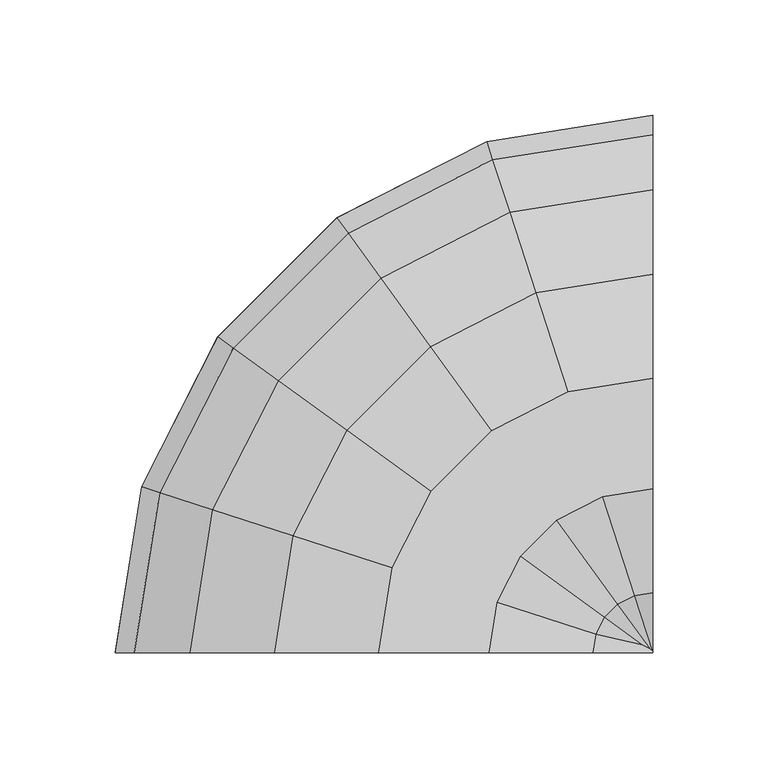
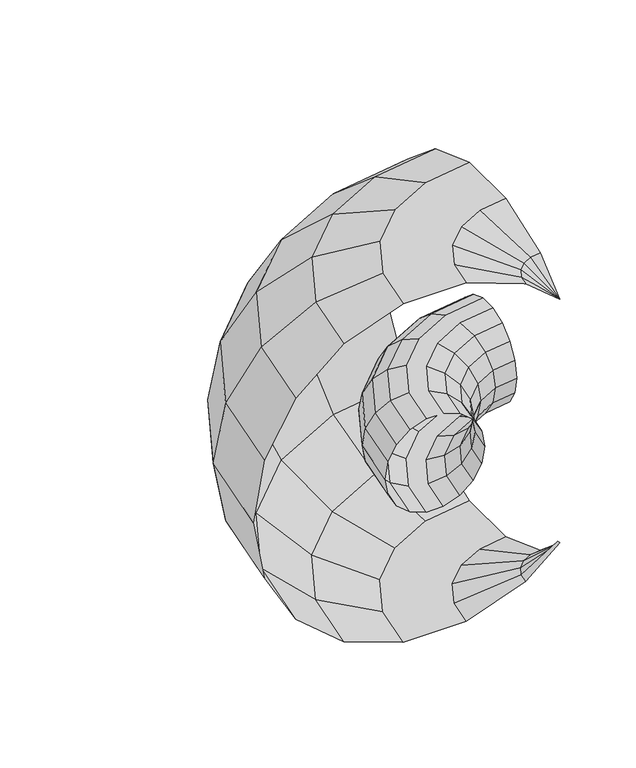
"""IFC4 building model written with IfcOpenShell, lengths in millimetres: proxy geometry, Rohrbogen 257273 : Rohrbogen 257273."""

from ifc_helpers import new_model, si_unit, origin, place, context, project, spatial, triangles, source, transform, mapped, element, save


def generic_models_df03ad17(model_context):
    return source(origin(), model_context, "Body", "Tessellation", [
        triangles([(14355.2191223, 7384.2393906, 5635.6408905), (14357.5143311, 7384.2393906, 5648.654631), (14363.9139404, 7424.6450638, 5648.654631), (14361.7315155, 7425.3543228, 5635.6408905), (14382.4860626, 7461.0951645, 5648.654631), (14380.6291992, 7462.4445007, 5635.6408905), (14411.4133667, 7490.0224686, 5648.654631), (14410.0646118, 7491.879332, 5635.6408905), (14447.8634674, 7508.5951721, 5648.654631), (14447.1542084, 7510.777597, 5635.6408905), (14488.2691406, 7514.9947815, 5648.654631), (14488.2691406, 7517.2894089, 5635.6408905), (14364.1209045, 7384.2393906, 5660.0987), (14370.1972778, 7422.6033279, 5660.0987), (14387.8310852, 7457.2116806, 5660.0987), (14415.2968506, 7484.677446, 5660.0987), (14449.9052032, 7502.3112534, 5660.0987), (14488.2691406, 7508.3876266, 5660.0987), (14374.2435425, 7384.2393906, 5668.5929489), (14379.8245972, 7419.4750305, 5668.5929489), (14396.021283, 7451.2614624, 5668.5929489), (14421.2464874, 7476.4878296, 5668.5929489), (14453.0329193, 7492.6833527, 5668.5929489), (14488.2691406, 7498.2644073, 5668.5929489), (14386.6613892, 7384.2393906, 5673.1124405), (14391.6343414, 7415.6380554, 5673.1124405), (14406.0671814, 7443.9624893, 5673.1124405), (14428.5460419, 7466.4413498, 5673.1124405), (14456.8710571, 7480.8736084, 5673.1124405), (14488.2691406, 7485.8465607, 5673.1124405), (14399.8768616, 7384.2393906, 5673.1124405), (14404.202179, 7411.5540024, 5673.1124405), (14416.7583893, 7436.1955215, 5673.1124405), (14436.3130096, 7455.7507233, 5673.1124405), (14460.9545288, 7468.3057709, 5673.1124405), (14488.2691406, 7472.632251, 5673.1124405), (14412.2935455, 7384.2393906, 5668.5929489), (14416.0130859, 7407.7170273, 5668.5929489), (14426.8042877, 7428.8965485, 5668.5929489), (14443.6125641, 7445.7042435, 5668.5929489), (14464.7915039, 7456.4960266, 5668.5929489), (14488.2691406, 7460.2144043, 5668.5929489), (14422.4173462, 7384.2393906, 5660.0987), (14425.6404053, 7404.5887299, 5660.0987), (14434.9933228, 7422.9463303, 5660.0987), (14449.5622009, 7437.5146271, 5660.0987), (14467.91922, 7446.8681259, 5660.0987), (14488.2691406, 7450.091185, 5660.0987), (14429.0239197, 7384.2393906, 5648.654631), (14431.9237427, 7402.546994, 5648.654631), (14440.3395081, 7419.062265, 5648.654631), (14453.4456848, 7432.1696045, 5648.654631), (14469.9609558, 7440.5842072, 5648.654631), (14488.2691406, 7443.4840302, 5648.654631), (14431.3191284, 7384.2393906, 5635.6408905), (14434.1061676, 7401.837735, 5635.6408905), (14442.1952087, 7417.7135101, 5635.6408905), (14454.7944397, 7430.3127411, 5635.6408905), (14470.6702148, 7438.4017822, 5635.6408905), (14488.2691406, 7441.1894028, 5635.6408905), (14429.0239197, 7384.2393906, 5622.62715), (14431.9237427, 7402.546994, 5622.62715), (14440.3395081, 7419.062265, 5622.62715), (14453.4456848, 7432.1696045, 5622.62715), (14469.9609558, 7440.5842072, 5622.62715), (14488.2691406, 7443.4840302, 5622.62715), (14422.4173462, 7384.2393906, 5611.1824997), (14425.6404053, 7404.5887299, 5611.1824997), (14434.9933228, 7422.9463303, 5611.1824997), (14449.5622009, 7437.5146271, 5611.1824997), (14467.91922, 7446.8681259, 5611.1824997), (14488.2691406, 7450.091185, 5611.1824997), (14412.2935455, 7384.2393906, 5602.6882507), (14416.0130859, 7407.7170273, 5602.6882507), (14426.8042877, 7428.8965485, 5602.6882507), (14443.6125641, 7445.7042435, 5602.6882507), (14464.7915039, 7456.4960266, 5602.6882507), (14488.2691406, 7460.2144043, 5602.6882507), (14399.8768616, 7384.2393906, 5598.1687592), (14404.202179, 7411.5540024, 5598.1687592), (14416.7583893, 7436.1955215, 5598.1687592), (14436.3130096, 7455.7507233, 5598.1687592), (14460.9545288, 7468.3057709, 5598.1687592), (14488.2691406, 7472.632251, 5598.1687592), (14386.6613892, 7384.2393906, 5598.1687592), (14391.6343414, 7415.6380554, 5598.1687592), (14406.0671814, 7443.9624893, 5598.1687592), (14428.5460419, 7466.4413498, 5598.1687592), (14456.8710571, 7480.8736084, 5598.1687592), (14488.2691406, 7485.8465607, 5598.1687592), (14374.2435425, 7384.2393906, 5602.6882507), (14379.8245972, 7419.4750305, 5602.6882507), (14396.021283, 7451.2614624, 5602.6882507), (14421.2464874, 7476.4878296, 5602.6882507), (14453.0329193, 7492.6833527, 5602.6882507), (14488.2691406, 7498.2644073, 5602.6882507), (14364.1209045, 7384.2393906, 5611.1824997), (14370.1972778, 7422.6033279, 5611.1824997), (14387.8310852, 7457.2116806, 5611.1824997), (14415.2968506, 7484.677446, 5611.1824997), (14449.9052032, 7502.3112534, 5611.1824997), (14488.2691406, 7508.3876266, 5611.1824997), (14357.5143311, 7384.2393906, 5622.62715), (14363.9139404, 7424.6450638, 5622.62715), (14382.4860626, 7461.0951645, 5622.62715), (14411.4133667, 7490.0224686, 5622.62715), (14447.8634674, 7508.5951721, 5622.62715), (14488.2691406, 7514.9947815, 5622.62715), (14255.2194122, 7384.2393906, 5635.6408905), (14263.5444855, 7384.2393906, 5682.8566132), (14274.5438141, 7453.6828262, 5682.8566132), (14266.6256927, 7456.255925, 5635.6408905), (14306.462796, 7516.3290024, 5682.8566132), (14299.7271606, 7521.2228897, 5635.6408905), (14356.1795288, 7566.0451538, 5682.8566132), (14351.2856415, 7572.7807892, 5635.6408905), (14418.825705, 7597.9652985, 5682.8566132), (14416.2526062, 7605.8828384, 5635.6408905), (14488.2691406, 7608.9640457, 5682.8566132), (14488.2691406, 7617.289119, 5635.6408905), (14287.5162781, 7384.2393906, 5724.3773346), (14297.3424225, 7446.2751389, 5724.3773346), (14325.8569611, 7502.2385834, 5724.3773346), (14370.2693665, 7546.6515701, 5724.3773346), (14426.2333923, 7575.1661087, 5724.3773346), (14488.2691406, 7584.9916718, 5724.3773346), (14324.2442688, 7384.2393906, 5755.1958023), (14332.2716858, 7434.9258316, 5755.1958023), (14355.5702637, 7480.6509476, 5755.1958023), (14391.8575836, 7516.9382675, 5755.1958023), (14437.5826996, 7540.236264, 5755.1958023), (14488.2691406, 7548.2642624, 5755.1958023), (14369.2973328, 7384.2393906, 5771.5936386), (14375.1202332, 7421.004007, 5771.5936386), (14392.0180389, 7454.1694244, 5771.5936386), (14418.3385254, 7480.4899109, 5771.5936386), (14451.5051056, 7497.3888794, 5771.5936386), (14488.2691406, 7503.2117798, 5771.5936386), (14417.240918, 7384.2393906, 5771.5936386), (14420.71745, 7406.1880508, 5771.5936386), (14430.806369, 7425.9885864, 5771.5936386), (14446.5205261, 7441.7021622, 5771.5936386), (14466.3204803, 7451.7910812, 5771.5936386), (14488.2691406, 7455.2670319, 5771.5936386), (14462.2939819, 7384.2393906, 5755.1958023), (14463.5648346, 7392.2662262, 5755.1958023), (14467.255307, 7399.5070633, 5755.1958023), (14473.0014679, 7405.2538055, 5755.1958023), (14480.2428864, 7408.9431152, 5755.1958023), (14488.2691406, 7410.2145493, 5755.1958023), (14488.2691406, 7384.2393906, 5733.4000397), (14488.2691406, 7386.6735443, 5733.7232758), (14488.2691406, 7386.6735443, 5537.5585052), (14463.5648346, 7392.2662262, 5516.0859787), (14488.2691406, 7384.2393906, 5537.8817413), (14462.2939819, 7384.2393906, 5516.0859787), (14467.255307, 7399.5070633, 5516.0859787), (14473.0014679, 7405.2538055, 5516.0859787), (14480.2428864, 7408.9431152, 5516.0859787), (14488.2691406, 7410.2145493, 5516.0859787), (14417.240918, 7384.2393906, 5499.6881424), (14420.71745, 7406.1880508, 5499.6881424), (14430.806369, 7425.9885864, 5499.6881424), (14446.5205261, 7441.7021622, 5499.6881424), (14466.3204803, 7451.7910812, 5499.6881424), (14488.2691406, 7455.2670319, 5499.6881424), (14369.2973328, 7384.2393906, 5499.6881424), (14375.1202332, 7421.004007, 5499.6881424), (14392.0180389, 7454.1694244, 5499.6881424), (14418.3385254, 7480.4899109, 5499.6881424), (14451.5051056, 7497.3888794, 5499.6881424), (14488.2691406, 7503.2117798, 5499.6881424), (14324.2442688, 7384.2393906, 5516.0859787), (14332.2716858, 7434.9258316, 5516.0859787), (14355.5702637, 7480.6509476, 5516.0859787), (14391.8575836, 7516.9382675, 5516.0859787), (14437.5826996, 7540.236264, 5516.0859787), (14488.2691406, 7548.2642624, 5516.0859787), (14287.5162781, 7384.2393906, 5546.9038651), (14297.3424225, 7446.2751389, 5546.9038651), (14325.8569611, 7502.2385834, 5546.9038651), (14370.2693665, 7546.6515701, 5546.9038651), (14426.2333923, 7575.1661087, 5546.9038651), (14488.2691406, 7584.9916718, 5546.9038651), (14263.5444855, 7384.2393906, 5588.4251678), (14274.5438141, 7453.6828262, 5588.4251678), (14306.462796, 7516.3290024, 5588.4251678), (14356.1795288, 7566.0451538, 5588.4251678), (14418.825705, 7597.9652985, 5588.4251678), (14488.2691406, 7608.9640457, 5588.4251678)], [[4, 1, 2], [2, 3, 4], [6, 4, 3], [3, 5, 6], [8, 6, 5], [5, 7, 8], [10, 8, 7], [7, 9, 10], [12, 10, 9], [9, 11, 12], [3, 2, 14], [13, 14, 2], [5, 3, 15], [14, 15, 3], [7, 5, 16], [15, 16, 5], [9, 7, 17], [16, 17, 7], [11, 9, 18], [17, 18, 9], [14, 13, 19], [19, 20, 14], [15, 14, 20], [20, 21, 15], [16, 15, 22], [21, 22, 15], [17, 16, 23], [22, 23, 16], [18, 17, 23], [23, 24, 18], [20, 19, 25], [25, 26, 20], [21, 20, 26], [26, 27, 21], [22, 21, 28], [27, 28, 21], [23, 22, 29], [28, 29, 22], [24, 23, 30], [29, 30, 23], [26, 25, 31], [31, 32, 26], [27, 26, 32], [32, 33, 27], [28, 27, 33], [33, 34, 28], [29, 28, 34], [34, 35, 29], [30, 29, 35], [35, 36, 30], [32, 31, 37], [37, 38, 32], [33, 32, 39], [38, 39, 32], [34, 33, 40], [39, 40, 33], [35, 34, 41], [40, 41, 34], [36, 35, 42], [41, 42, 35], [38, 37, 44], [43, 44, 37], [39, 38, 44], [44, 45, 39], [40, 39, 45], [45, 46, 40], [41, 40, 46], [46, 47, 41], [42, 41, 47], [47, 48, 42], [44, 43, 50], [49, 50, 43], [45, 44, 50], [50, 51, 45], [46, 45, 52], [51, 52, 45], [47, 46, 53], [52, 53, 46], [48, 47, 54], [53, 54, 47], [50, 49, 56], [55, 56, 49], [51, 50, 56], [56, 57, 51], [52, 51, 57], [57, 58, 52], [53, 52, 58], [58, 59, 53], [54, 53, 59], [59, 60, 54], [56, 55, 61], [61, 62, 56], [57, 56, 63], [62, 63, 56], [58, 57, 64], [63, 64, 57], [59, 58, 65], [64, 65, 58], [60, 59, 66], [65, 66, 59], [62, 61, 67], [67, 68, 62], [63, 62, 69], [68, 69, 62], [64, 63, 70], [69, 70, 63], [65, 64, 70], [70, 71, 65], [66, 65, 71], [71, 72, 66], [68, 67, 74], [73, 74, 67], [69, 68, 74], [74, 75, 69], [70, 69, 76], [75, 76, 69], [71, 70, 77], [76, 77, 70], [72, 71, 78], [77, 78, 71], [74, 73, 80], [79, 80, 73], [75, 74, 80], [80, 81, 75], [76, 75, 81], [81, 82, 76], [77, 76, 82], [82, 83, 77], [78, 77, 83], [83, 84, 78], [80, 79, 86], [85, 86, 79], [81, 80, 87], [86, 87, 80], [82, 81, 88], [87, 88, 81], [83, 82, 89], [88, 89, 82], [84, 83, 90], [89, 90, 83], [86, 85, 91], [91, 92, 86], [87, 86, 92], [92, 93, 87], [88, 87, 93], [93, 94, 88], [89, 88, 94], [94, 95, 89], [90, 89, 95], [95, 96, 90], [92, 91, 98], [97, 98, 91], [93, 92, 99], [98, 99, 92], [94, 93, 99], [99, 100, 94], [95, 94, 100], [100, 101, 95], [96, 95, 102], [101, 102, 95], [98, 97, 103], [103, 104, 98], [99, 98, 104], [104, 105, 99], [100, 99, 105], [105, 106, 100], [101, 100, 106], [106, 107, 101], [102, 101, 107], [107, 108, 102], [104, 103, 4], [1, 4, 103], [105, 104, 6], [4, 6, 104], [106, 105, 8], [6, 8, 105], [107, 106, 10], [8, 10, 106], [108, 107, 12], [10, 12, 107], [112, 109, 111], [110, 111, 109], [114, 112, 113], [111, 113, 112], [116, 114, 115], [113, 115, 114], [118, 116, 117], [115, 117, 116], [120, 118, 119], [117, 119, 118], [111, 110, 121], [121, 122, 111], [113, 111, 122], [122, 123, 113], [115, 113, 123], [123, 124, 115], [117, 115, 124], [124, 125, 117], [119, 117, 125], [125, 126, 119], [122, 121, 127], [127, 128, 122], [123, 122, 128], [128, 129, 123], [124, 123, 130], [129, 130, 123], [125, 124, 131], [130, 131, 124], [126, 125, 132], [131, 132, 125], [128, 127, 133], [133, 134, 128], [129, 128, 134], [134, 135, 129], [130, 129, 136], [135, 136, 129], [131, 130, 137], [136, 137, 130], [132, 131, 138], [137, 138, 131], [134, 133, 139], [139, 140, 134], [135, 134, 140], [140, 141, 135], [136, 135, 142], [141, 142, 135], [137, 136, 143], [142, 143, 136], [138, 137, 143], [143, 144, 138], [140, 139, 145], [145, 146, 140], [141, 140, 147], [146, 147, 140], [142, 141, 148], [147, 148, 141], [143, 142, 149], [148, 149, 142], [144, 143, 149], [149, 150, 144], [151, 146, 152], [151, 152, 145], [146, 145, 152], [147, 146, 151], [148, 147, 151], [149, 148, 151], [150, 149, 151], [155, 153, 154], [156, 154, 153], [153, 155, 156], [154, 157, 155], [155, 157, 158], [158, 159, 155], [159, 160, 155], [154, 156, 162], [161, 162, 156], [157, 154, 162], [162, 163, 157], [158, 157, 163], [163, 164, 158], [159, 158, 164], [164, 165, 159], [160, 159, 166], [165, 166, 159], [162, 161, 168], [167, 168, 161], [163, 162, 169], [168, 169, 162], [164, 163, 170], [169, 170, 163], [165, 164, 170], [170, 171, 165], [166, 165, 172], [171, 172, 165], [168, 167, 174], [173, 174, 167], [169, 168, 174], [174, 175, 169], [170, 169, 175], [175, 176, 170], [171, 170, 176], [176, 177, 171], [172, 171, 177], [177, 178, 172], [174, 173, 180], [179, 180, 173], [175, 174, 181], [180, 181, 174], [176, 175, 181], [181, 182, 176], [177, 176, 182], [182, 183, 177], [178, 177, 184], [183, 184, 177], [180, 179, 186], [185, 186, 179], [181, 180, 186], [186, 187, 181], [182, 181, 187], [187, 188, 182], [183, 182, 189], [188, 189, 182], [184, 183, 190], [189, 190, 183], [186, 185, 109], [109, 112, 186], [187, 186, 112], [112, 114, 187], [188, 187, 114], [114, 116, 188], [189, 188, 116], [116, 118, 189], [190, 189, 118], [118, 120, 190]], closed=False),
    ])


if __name__ == "__main__":
    model = new_model("IFC4")
    model_context = context("Model", 3, world=origin())
    ifc_project = project(units=[si_unit("LENGTHUNIT", "METRE", prefix="MILLI")], contexts=[model_context])
    site = spatial("IfcSite", under=ifc_project)
    building = spatial("IfcBuilding", under=site)
    placement = place(None, origin())
    generic_models_shape = generic_models_df03ad17(model_context)
    element("IfcBuildingElementProxy", 1, Name="Rohrbogen 257273 : Rohrbogen 257273", ObjectType="Rohrbogen 257273 : Rohrbogen 257273", at=placement, inside=building, context=model_context, shape_type="MappedRepresentation", body=[
        mapped(generic_models_shape, transform((0.0, 0.0, 0.0), x_axis=(1.0, 0.0, 0.0), y_axis=(0.0, 1.0, 0.0), z_axis=(0.0, 0.0, 1.0))),
    ])
    save(model, "model.ifc")
